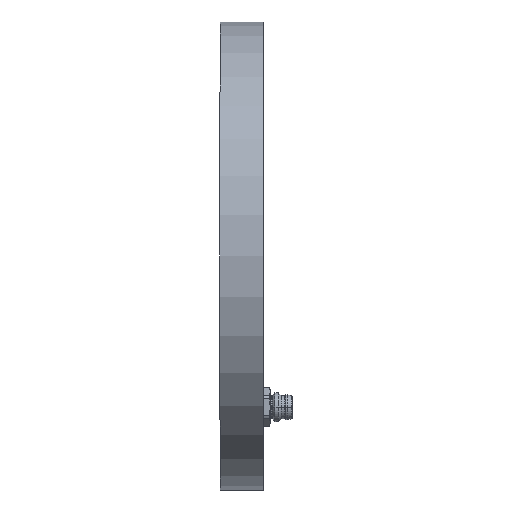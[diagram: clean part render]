
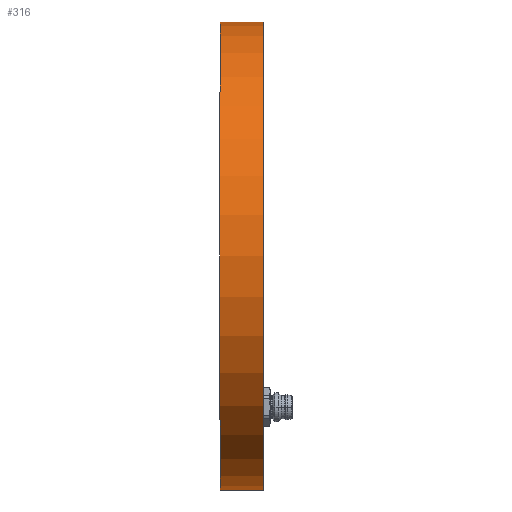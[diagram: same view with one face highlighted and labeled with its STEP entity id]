
A CAD part, left-side view. The second image highlights one B-rep face of the part: STEP entity #316.
In plain terms, the highlighted cylindrical face has radius 65 mm (diameter 130 mm), a partial arc.
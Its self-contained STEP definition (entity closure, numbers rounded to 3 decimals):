
#99 = CARTESIAN_POINT ( 'NONE',  ( 0., 0., 65. ) ) ;
#117 = CARTESIAN_POINT ( 'NONE',  ( 0., 12., -65. ) ) ;
#118 = AXIS2_PLACEMENT_3D ( 'NONE', #3307, #7203, #8650 ) ;
#203 = DIRECTION ( 'NONE',  ( 0., 1., 0. ) ) ;
#230 = EDGE_CURVE ( 'NONE', #3251, #1335, #4195, .T. ) ;
#267 = FACE_OUTER_BOUND ( 'NONE', #5606, .T. ) ;
#316 = ADVANCED_FACE ( 'NONE', ( #267 ), #1073, .T. ) ;
#576 = CARTESIAN_POINT ( 'NONE',  ( 0., 12., 65. ) ) ;
#1073 = CYLINDRICAL_SURFACE ( 'NONE', #8172, 65. ) ;
#1134 = ORIENTED_EDGE ( 'NONE', *, *, #1422, .F. ) ;
#1189 = AXIS2_PLACEMENT_3D ( 'NONE', #7099, #203, #7134 ) ;
#1335 = VERTEX_POINT ( 'NONE', #99 ) ;
#1422 = EDGE_CURVE ( 'NONE', #4576, #3251, #9278, .T. ) ;
#1623 = DIRECTION ( 'NONE',  ( 0., -1., 0. ) ) ;
#1883 = ORIENTED_EDGE ( 'NONE', *, *, #2291, .T. ) ;
#2151 = VECTOR ( 'NONE', #9038, 1000. ) ;
#2291 = EDGE_CURVE ( 'NONE', #3942, #1335, #6815, .T. ) ;
#3109 = CARTESIAN_POINT ( 'NONE',  ( 0., 12., 0. ) ) ;
#3251 = VERTEX_POINT ( 'NONE', #576 ) ;
#3307 = CARTESIAN_POINT ( 'NONE',  ( 0., 0., 0. ) ) ;
#3473 = VECTOR ( 'NONE', #1623, 1000. ) ;
#3942 = VERTEX_POINT ( 'NONE', #8560 ) ;
#4031 = EDGE_CURVE ( 'NONE', #4576, #3942, #9431, .T. ) ;
#4195 = LINE ( 'NONE', #8339, #2151 ) ;
#4244 = CARTESIAN_POINT ( 'NONE',  ( 0., 12., -65. ) ) ;
#4576 = VERTEX_POINT ( 'NONE', #4244 ) ;
#5469 = DIRECTION ( 'NONE',  ( 0., 0., -1. ) ) ;
#5606 = EDGE_LOOP ( 'NONE', ( #7374, #1134, #7715, #1883 ) ) ;
#6815 = CIRCLE ( 'NONE', #118, 65. ) ;
#7099 = CARTESIAN_POINT ( 'NONE',  ( 0., 12., 0. ) ) ;
#7134 = DIRECTION ( 'NONE',  ( 0., 0., 1. ) ) ;
#7203 = DIRECTION ( 'NONE',  ( 0., 1., 0. ) ) ;
#7374 = ORIENTED_EDGE ( 'NONE', *, *, #230, .F. ) ;
#7715 = ORIENTED_EDGE ( 'NONE', *, *, #4031, .T. ) ;
#8172 = AXIS2_PLACEMENT_3D ( 'NONE', #3109, #8463, #5469 ) ;
#8339 = CARTESIAN_POINT ( 'NONE',  ( 0., 12., 65. ) ) ;
#8463 = DIRECTION ( 'NONE',  ( 0., -1., 0. ) ) ;
#8560 = CARTESIAN_POINT ( 'NONE',  ( 0., 0., -65. ) ) ;
#8650 = DIRECTION ( 'NONE',  ( 0., 0., 1. ) ) ;
#9038 = DIRECTION ( 'NONE',  ( 0., -1., 0. ) ) ;
#9278 = CIRCLE ( 'NONE', #1189, 65. ) ;
#9431 = LINE ( 'NONE', #117, #3473 ) ;
